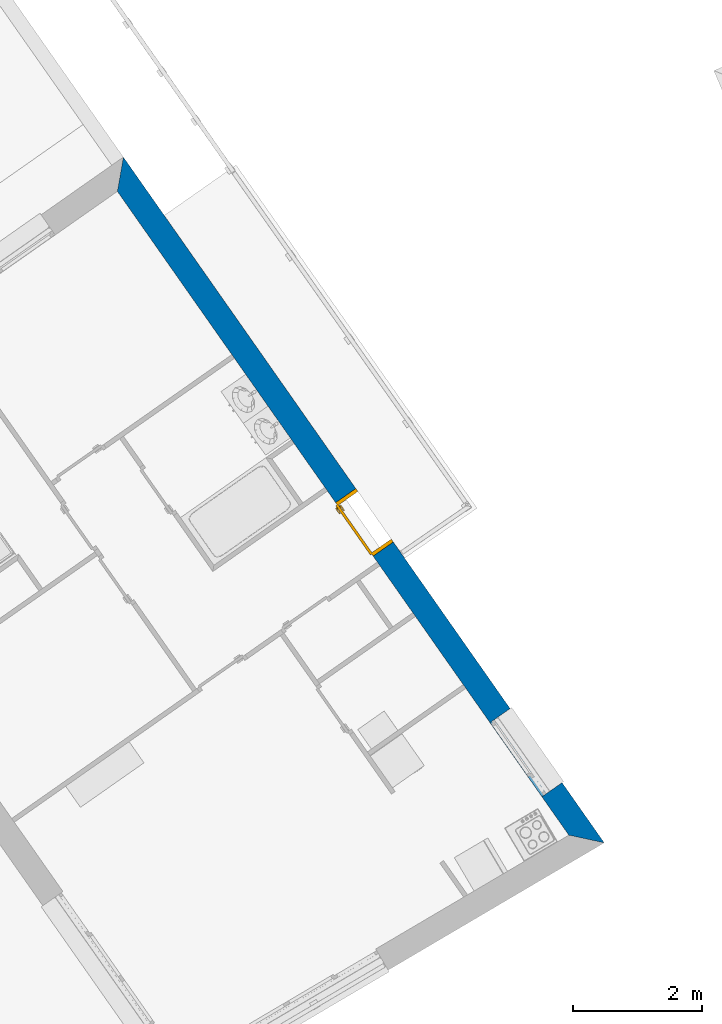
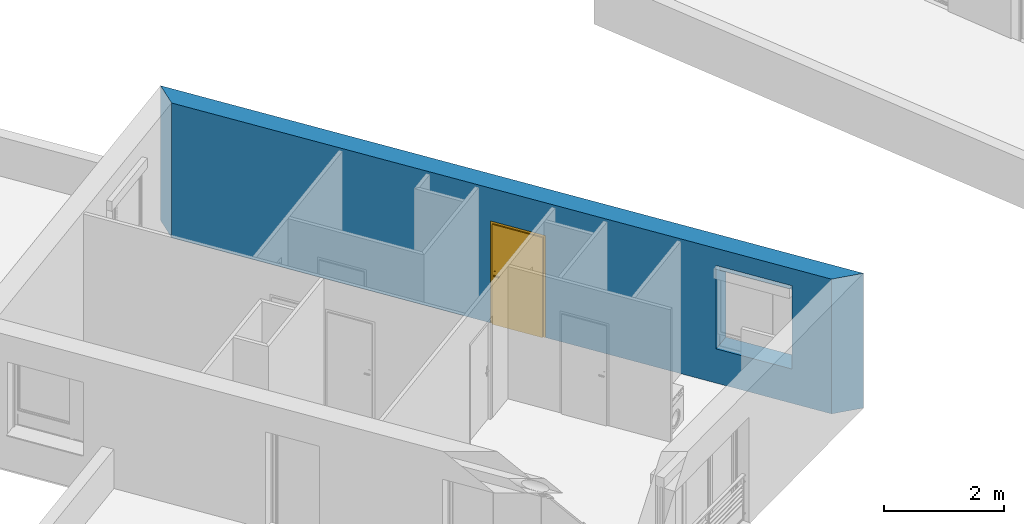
# One storey, part 28 of 121: 1 door, 1 wall, 2 openings.
"""IFC2X3 building model written with IfcOpenShell, lengths in metres."""

from ifc_helpers import new_model, entity, si_unit, converted_unit, derived_unit, money_unit, direction, frame, origin_with_axes, origin_2d_with_axis, place, context, subcontext, project, spatial, polyline, rectangle, outline, extrude, faceted_brep, source, transform, mapped, material, layer, layer_set, layer_usage, type_object, element, fill, save


model = new_model("IFC2X3")

# Units and contexts
model_context = context("Model", 3, precision=1e-05, world=origin_with_axes(), true_north=direction((0.0, 1.0)))
body_context = subcontext(model_context, "Body", "Model", "MODEL_VIEW")
ifc_project = project(units=[si_unit("LENGTHUNIT", "METRE"), si_unit("AREAUNIT", "SQUARE_METRE"), si_unit("VOLUMEUNIT", "CUBIC_METRE"), converted_unit("PLANEANGLEUNIT", "DEGREE", entity("IfcPlaneAngleMeasure", 0.0174532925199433), si_unit("PLANEANGLEUNIT", "RADIAN"), dimensions=[0, 0, 0, 0, 0, 0, 0]), money_unit("CHF"), converted_unit("TIMEUNIT", "Year", entity("IfcTimeMeasure", 31557600.0), si_unit("TIMEUNIT", "SECOND"), dimensions=[0, 0, 1, 0, 0, 0, 0]), si_unit("MASSUNIT", "GRAM", prefix="KILO"), si_unit("THERMODYNAMICTEMPERATUREUNIT", "DEGREE_CELSIUS"), si_unit("LUMINOUSINTENSITYUNIT", "LUMEN"), si_unit("ENERGYUNIT", "JOULE", prefix="MEGA"), derived_unit("THERMALCONDUCTANCEUNIT", [(si_unit("POWERUNIT", "WATT"), 1), (si_unit("LENGTHUNIT", "METRE"), -1), (si_unit("THERMODYNAMICTEMPERATUREUNIT", "KELVIN"), -1)]), derived_unit("SPECIFICHEATCAPACITYUNIT", [(si_unit("ENERGYUNIT", "JOULE"), 1), (si_unit("MASSUNIT", "GRAM", prefix="KILO"), -1), (si_unit("THERMODYNAMICTEMPERATUREUNIT", "KELVIN"), -1)]), derived_unit("MASSDENSITYUNIT", [(si_unit("MASSUNIT", "GRAM", prefix="KILO"), 1), (si_unit("VOLUMEUNIT", "CUBIC_METRE"), -1)])], contexts=[model_context])

# Site, building, storey
site_placement = place(None, origin_with_axes())
site = spatial("IfcSite", under=ifc_project, at=site_placement, Name="Site", CompositionType="ELEMENT")
building_placement = place(site_placement, origin_with_axes())
building = spatial("IfcBuilding", under=site, at=building_placement, Name="Bâtiment", CompositionType="ELEMENT")
storey_placement = place(building_placement, frame((0.0, 0.0, 2.75), z_axis=(0.0, 0.0, 1.0), x_axis=(1.0, 0.0, 0.0)))
storey = spatial("IfcBuildingStorey", under=building, at=storey_placement, Name="Etage 1", CompositionType="ELEMENT", Elevation=2.75)

# Wall, openings, door
ifc_material_1 = material(Name="Parpaing 312445824")
ifc_layer_1 = layer(ifc_material_1, 0.22, ventilated="UNKNOWN")
ifc_material_2 = material(Name="Isolant styromousse 301821074")
ifc_layer_2 = layer(ifc_material_2, 0.16, ventilated="UNKNOWN")
ifc_layer_set = layer_set([ifc_layer_1, ifc_layer_2], Name="isol int 22+16 0836643197")
ifc_layer_usage = layer_usage(ifc_layer_set, "AXIS2", "NEGATIVE", 0.0)
wall_type = type_object("IfcWallType", Name="isol int 22+16 0836643197 380", PredefinedType="NOTDEFINED")
wall_placement = place(storey_placement, frame((9555.643873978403, -1059.576602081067, 57.7), z_axis=(0.0, 0.0, 1.0), x_axis=(0.5741598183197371, -0.8187432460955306, 0.0)))
wall = element("IfcWallStandardCase", 1, at=wall_placement, inside=storey, type_object=wall_type, material=ifc_layer_usage, Name="Mur-113", context=body_context, shape_type="SweptSolid", body=[
    extrude(outline(polyline([(0.3800000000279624, -0.3799999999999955), (12.545933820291, -0.3799999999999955), (12.95727342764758, 0.0), (0.0, 0.0), (0.3800000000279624, -0.3799999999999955)])), origin_with_axes(), (0.0, 0.0, 1.0), 2.75),
])
opening_1_placement = place(wall_placement, frame((11.11977432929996, 0.0, 0.7000000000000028), z_axis=(0.0, 0.0, 1.0), x_axis=(1.0, 0.0, 0.0)))
element("IfcOpeningElement", 2, at=opening_1_placement, cuts=wall, Name="Fen-045", context=body_context, shape_type="Brep", body=[
    faceted_brep([(-0.6999999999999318, -0.2200000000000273, 1.5), (0.7000000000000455, -0.2200000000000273, 1.5), (0.6999999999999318, 6.092077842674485, 1.5), (-0.7000000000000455, 6.092077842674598, 1.5), (-0.6999999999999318, -0.2200000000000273, 1.700000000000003), (0.7000000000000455, -0.2200000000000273, 1.700000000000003), (0.7000000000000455, -0.3000000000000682, 1.5), (0.7000000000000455, -0.3000000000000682, 0.0), (0.6999999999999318, 6.092077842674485, 0.0), (-0.7000000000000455, 6.092077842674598, 0.0), (-0.7000000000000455, -0.3000000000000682, 1.5), (-0.7000000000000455, -0.3000000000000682, 0.0), (-0.6999999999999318, -0.4800000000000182, 1.5), (-0.6999999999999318, -0.4800000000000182, 1.700000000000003), (0.7000000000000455, -0.4800000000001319, 1.700000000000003), (0.7000000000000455, -0.4800000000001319, 1.5), (0.7000000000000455, -6.472077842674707, 1.5), (0.7000000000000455, -6.472077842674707, 0.0), (-0.7000000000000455, -6.472077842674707, 0.0), (-0.7000000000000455, -6.472077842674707, 1.5)], [[[0, 1, 2, 3]], [[1, 0, 4, 5]], [[1, 6, 7, 8, 2]], [[2, 8, 9, 3]], [[10, 0, 3, 9, 11]], [[0, 10, 12, 13, 4]], [[14, 5, 4, 13]], [[6, 1, 5, 14, 15]], [[6, 15, 16, 17, 7]], [[11, 9, 8, 7, 17, 18]], [[12, 10, 11, 18, 19]], [[12, 15, 14, 13]], [[15, 12, 19, 16]], [[19, 18, 17, 16]]]),
])
opening_2_placement = place(wall_placement, frame((6.767124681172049, 0.0, 0.0), z_axis=(0.0, 0.0, 1.0), x_axis=(1.0, 0.0, 0.0)))
opening_2 = element("IfcOpeningElement", 3, at=opening_2_placement, cuts=wall, Name="Por-293", context=body_context, shape_type="SweptSolid", body=[
    extrude(rectangle(XDim=1.01000001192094, YDim=2.079999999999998, at=origin_2d_with_axis()), frame((5.960487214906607e-09, 0.3800000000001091, 1.039999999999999), z_axis=(0.0, 1.0, 0.0), x_axis=(1.0, 0.0, 0.0)), (0.0, 0.0, -1.0), 0.76),
])
door_style = type_object("IfcDoorStyle", Name="Porte_1v", ConstructionType="NOTDEFINED", OperationType="NOTDEFINED", ParameterTakesPrecedence=False, Sizeable=False)
shared_shape = source(origin_with_axes(), body_context, "Body", "Brep", [
    faceted_brep([(-0.505, 0.0, 0.0), (-0.505, 0.0, 2.08), (0.505, 0.0, 2.08), (0.505, 0.0, 0.0), (0.465, 0.0, 0.0), (0.465, 0.0, 2.04), (-0.465, 0.0, 2.04), (-0.465, 0.0, 0.0), (-0.505, -0.38, 0.0), (-0.505, -0.38, 2.08), (0.505, -0.38, 2.08), (0.505, -0.38, 0.0), (0.45, -0.38, 0.0), (0.45, -0.015, 0.0), (0.465, -0.015, 0.0), (0.465, -0.015, 2.04), (-0.465, -0.015, 2.04), (-0.465, -0.015, 0.0), (-0.45, -0.015, 0.0), (-0.45, -0.38, 0.0), (-0.45, -0.38, 2.025), (0.45, -0.38, 2.025), (0.45, -0.015, 2.025), (-0.45, -0.015, 2.025)], [[[0, 1, 2, 3, 4, 5, 6, 7]], [[8, 9, 1, 0]], [[9, 10, 2, 1]], [[10, 11, 3, 2]], [[3, 11, 12, 13, 14, 4]], [[5, 4, 14, 15]], [[6, 5, 15, 16]], [[7, 6, 16, 17]], [[0, 7, 17, 18, 19, 8]], [[19, 20, 21, 12, 11, 10, 9, 8]], [[22, 13, 12, 21]], [[17, 16, 15, 14, 13, 22, 23, 18]], [[18, 23, 20, 19]], [[23, 22, 21, 20]]]),
    faceted_brep([(0.4, -0.015, 0.9), (0.4, -0.015, 1.1), (0.44, -0.015, 1.1), (0.44, -0.015, 0.9), (0.4, -0.025, 0.9), (0.4, -0.025, 1.1), (0.44, -0.025, 1.1), (0.44, -0.025, 0.9)], [[[0, 1, 2, 3]], [[0, 4, 5, 1]], [[1, 5, 6, 2]], [[2, 6, 7, 3]], [[3, 7, 4, 0]], [[7, 6, 5, 4]]]),
    faceted_brep([(0.33, -0.025, 1.0), (0.33, -0.025, 1.02), (0.43, -0.025, 1.02), (0.43, -0.025, 1.0), (0.33, -0.045, 1.0), (0.33, -0.045, 1.02), (0.43, -0.045, 1.02), (0.43, -0.045, 1.0)], [[[0, 1, 2, 3]], [[0, 4, 5, 1]], [[1, 5, 6, 2]], [[2, 6, 7, 3]], [[3, 7, 4, 0]], [[7, 6, 5, 4]]]),
    faceted_brep([(0.4, 0.035, 0.9), (0.4, 0.035, 1.1), (0.44, 0.035, 1.1), (0.44, 0.035, 0.9), (0.4, 0.025, 0.9), (0.4, 0.025, 1.1), (0.44, 0.025, 1.1), (0.44, 0.025, 0.9)], [[[0, 1, 2, 3]], [[0, 4, 5, 1]], [[1, 5, 6, 2]], [[2, 6, 7, 3]], [[3, 7, 4, 0]], [[7, 6, 5, 4]]]),
    faceted_brep([(0.33, 0.05500000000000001, 1.0), (0.33, 0.05500000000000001, 1.02), (0.43, 0.05500000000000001, 1.02), (0.43, 0.05500000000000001, 1.0), (0.33, 0.035, 1.0), (0.33, 0.035, 1.02), (0.43, 0.035, 1.02), (0.43, 0.035, 1.0)], [[[0, 1, 2, 3]], [[0, 4, 5, 1]], [[1, 5, 6, 2]], [[2, 6, 7, 3]], [[3, 7, 4, 0]], [[7, 6, 5, 4]]]),
    faceted_brep([(0.465, 0.025, 0.0), (0.465, -0.015, 0.0), (-0.465, -0.015, 0.0), (-0.465, 0.025, 0.0), (0.465, 0.025, 2.04), (0.465, -0.015, 2.04), (-0.465, -0.015, 2.04), (-0.465, 0.025, 2.04)], [[[0, 1, 2, 3]], [[4, 5, 1, 0]], [[1, 5, 6, 2]], [[3, 2, 6, 7]], [[0, 3, 7, 4]], [[7, 6, 5, 4]]]),
])
door_placement = place(opening_2_placement, frame((0.4650000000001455, 0.0, 0.0), z_axis=(0.0, 0.0, 1.0), x_axis=(-1.0, 0.0, 0.0)))
door = element("IfcDoor", 4, at=door_placement, inside=storey, type_object=door_style, Name="Por-293", OverallHeight=2.04, OverallWidth=0.93, context=body_context, shape_type="MappedRepresentation", body=[
    mapped(shared_shape, transform((0.4649999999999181, 0.3800000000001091, 0.0))),
])
fill(opening_2, door)

save(model, "model.ifc")
